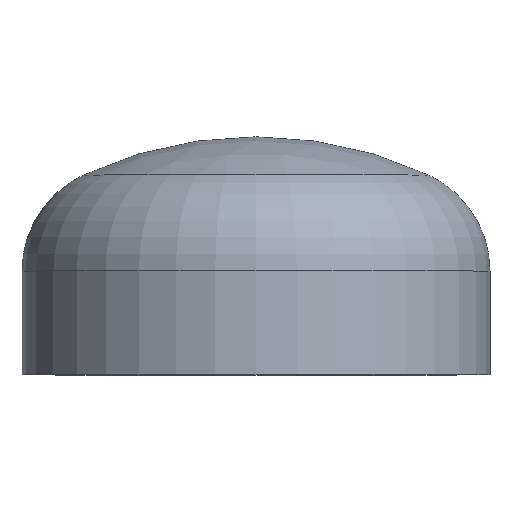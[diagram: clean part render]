
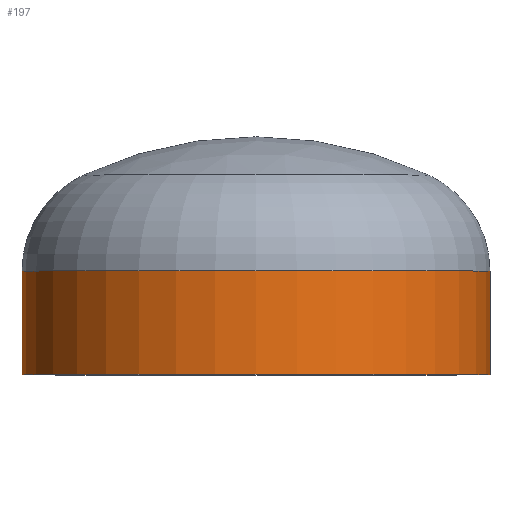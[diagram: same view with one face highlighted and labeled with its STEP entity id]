
A CAD part, top view. The second image highlights one B-rep face of the part: STEP entity #197.
In plain terms, the highlighted cylindrical face has radius 203.2 mm (diameter 406.4 mm), a partial arc.
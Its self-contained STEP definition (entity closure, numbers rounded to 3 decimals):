
#3 = LINE ( 'NONE', #215, #265 ) ;
#4 = LINE ( 'NONE', #79, #324 ) ;
#15 = AXIS2_PLACEMENT_3D ( 'NONE', #386, #133, #247 ) ;
#17 = CARTESIAN_POINT ( 'NONE',  ( 0., 0., 0. ) ) ;
#49 = VERTEX_POINT ( 'NONE', #256 ) ;
#52 = AXIS2_PLACEMENT_3D ( 'NONE', #205, #194, #192 ) ;
#53 = EDGE_CURVE ( 'NONE', #354, #174, #3, .T. ) ;
#54 = EDGE_CURVE ( 'NONE', #343, #354, #411, .T. ) ;
#76 = EDGE_LOOP ( 'NONE', ( #289, #376, #252, #349 ) ) ;
#79 = CARTESIAN_POINT ( 'NONE',  ( 203.2, 0., 0. ) ) ;
#83 = FACE_OUTER_BOUND ( 'NONE', #76, .T. ) ;
#86 = CARTESIAN_POINT ( 'NONE',  ( -203.2, 90., 0. ) ) ;
#90 = DIRECTION ( 'NONE',  ( 0., -1., 0. ) ) ;
#133 = DIRECTION ( 'NONE',  ( 0., -1., 0. ) ) ;
#157 = DIRECTION ( 'NONE',  ( 1., 0., 0. ) ) ;
#171 = DIRECTION ( 'NONE',  ( 0., -1., 0. ) ) ;
#174 = VERTEX_POINT ( 'NONE', #216 ) ;
#180 = CARTESIAN_POINT ( 'NONE',  ( 203.2, 90., 0. ) ) ;
#192 = DIRECTION ( 'NONE',  ( 1., 0., 0. ) ) ;
#194 = DIRECTION ( 'NONE',  ( 0., -1., 0. ) ) ;
#195 = CIRCLE ( 'NONE', #306, 203.2 ) ;
#197 = ADVANCED_FACE ( 'NONE', ( #83 ), #366, .T. ) ;
#205 = CARTESIAN_POINT ( 'NONE',  ( 0., 90., 0. ) ) ;
#215 = CARTESIAN_POINT ( 'NONE',  ( -203.2, 0., 0. ) ) ;
#216 = CARTESIAN_POINT ( 'NONE',  ( -203.2, 0., 0. ) ) ;
#247 = DIRECTION ( 'NONE',  ( 1., 0., 0. ) ) ;
#251 = DIRECTION ( 'NONE',  ( 0., -1., 0. ) ) ;
#252 = ORIENTED_EDGE ( 'NONE', *, *, #378, .F. ) ;
#256 = CARTESIAN_POINT ( 'NONE',  ( 203.2, 0., 0. ) ) ;
#265 = VECTOR ( 'NONE', #251, 1000. ) ;
#289 = ORIENTED_EDGE ( 'NONE', *, *, #54, .T. ) ;
#306 = AXIS2_PLACEMENT_3D ( 'NONE', #17, #90, #157 ) ;
#324 = VECTOR ( 'NONE', #171, 1000. ) ;
#343 = VERTEX_POINT ( 'NONE', #180 ) ;
#349 = ORIENTED_EDGE ( 'NONE', *, *, #383, .F. ) ;
#354 = VERTEX_POINT ( 'NONE', #86 ) ;
#366 = CYLINDRICAL_SURFACE ( 'NONE', #15, 203.2 ) ;
#376 = ORIENTED_EDGE ( 'NONE', *, *, #53, .T. ) ;
#378 = EDGE_CURVE ( 'NONE', #49, #174, #195, .T. ) ;
#383 = EDGE_CURVE ( 'NONE', #343, #49, #4, .T. ) ;
#386 = CARTESIAN_POINT ( 'NONE',  ( 0., 0., 0. ) ) ;
#411 = CIRCLE ( 'NONE', #52, 203.2 ) ;
